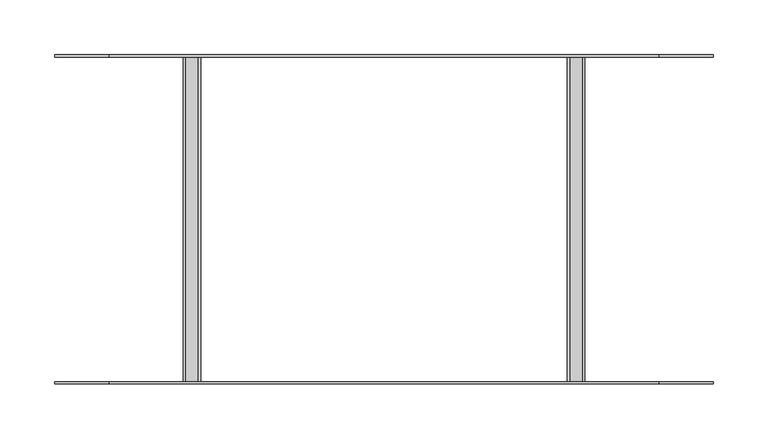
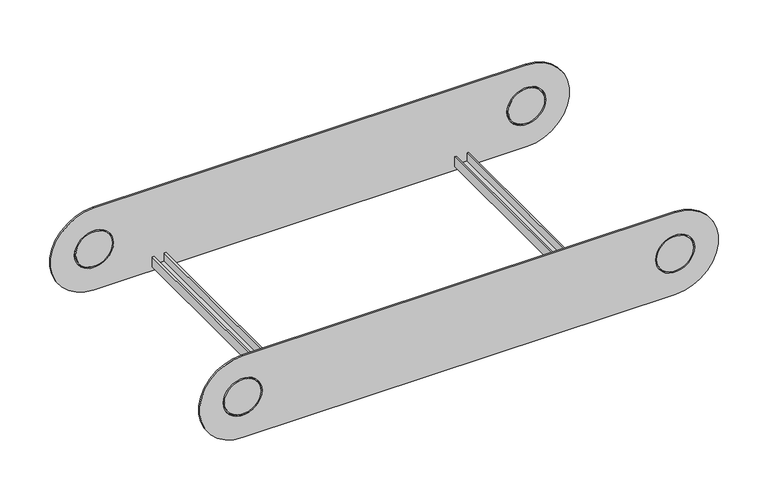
"""IFC4 building model written with IfcOpenShell, lengths in millimetres: cable carrier fitting geometry, BAKS_LDLS_BEND_Adjustable vertical bend element_ELDS : ELDSC_H100."""

from ifc_helpers import new_model, si_unit, point, frame, frame_2d, origin, origin_2d, place, context, project, spatial, polyline, circle_curve, trimmed, segment, composite_curve, outline, extrude, source, transform, mapped, element, save


def cable_carrier_fitting_d10d1ab3(model_context):
    return source(origin(), model_context, "Body", "SweptSolid", [
        extrude(outline(composite_curve([segment(polyline([(50.0, 500.0), (50.0, 0.0)]), True, "CONTINUOUS"), segment(trimmed(circle_curve(origin_2d(), 50.0), [point((50.0, 0.0))], [point((-50.0, 0.0))], False, "CARTESIAN"), True, "CONTINUOUS"), segment(polyline([(-50.0, 0.0), (-50.0, 500.0)]), True, "CONTINUOUS"), segment(trimmed(circle_curve(frame_2d((0.0, 500.0)), 50.0), [point((-50.0, 500.0))], [point((50.0, 500.0))], False, "CARTESIAN"), True, "CONTINUOUS")], self_intersect=False), holes=[composite_curve([segment(trimmed(circle_curve(origin_2d(), 22.5), [point((0.0, -22.5))], [point((0.0, 22.5))], True, "CARTESIAN"), True, "CONTINUOUS"), segment(trimmed(circle_curve(origin_2d(), 22.5), [point((0.0, 22.5))], [point((0.0, -22.5))], True, "CARTESIAN"), True, "CONTINUOUS")], self_intersect=False), composite_curve([segment(trimmed(circle_curve(frame_2d((0.0, 500.0)), 22.5), [point((0.0, 477.5))], [point((0.0, 522.5))], True, "CARTESIAN"), True, "CONTINUOUS"), segment(trimmed(circle_curve(frame_2d((0.0, 500.0)), 22.5), [point((0.0, 522.5))], [point((0.0, 477.5))], True, "CARTESIAN"), True, "CONTINUOUS")], self_intersect=False)]), frame((0.0, 148.0, 0.0), z_axis=(0.0, 1.0, 0.0), x_axis=(0.0, 0.0, 1.0)), (0.0, 0.0, 1.0), 2.0),
        extrude(outline(composite_curve([segment(trimmed(circle_curve(origin_2d(), 21.0), [point((0.0, -21.0))], [point((0.0, 21.0))], False, "CARTESIAN"), True, "CONTINUOUS"), segment(trimmed(circle_curve(origin_2d(), 21.0), [point((0.0, 21.0))], [point((0.0, -21.0))], False, "CARTESIAN"), True, "CONTINUOUS")], self_intersect=False)), frame((0.0, 148.0, 0.0), z_axis=(0.0, 1.0, 0.0), x_axis=(0.0, 0.0, 1.0)), (0.0, 0.0, 1.0), 2.0),
        extrude(outline(composite_curve([segment(trimmed(circle_curve(frame_2d((0.0, 500.0)), 21.0), [point((0.0, 479.0))], [point((0.0, 521.0))], False, "CARTESIAN"), True, "CONTINUOUS"), segment(trimmed(circle_curve(frame_2d((0.0, 500.0)), 21.0), [point((0.0, 521.0))], [point((0.0, 479.0))], False, "CARTESIAN"), True, "CONTINUOUS")], self_intersect=False)), frame((0.0, 148.0, 0.0), z_axis=(0.0, 1.0, 0.0), x_axis=(0.0, 0.0, 1.0)), (0.0, 0.0, 1.0), 2.0),
        extrude(outline(composite_curve([segment(polyline([(50.0, 500.0), (50.0, 0.0)]), True, "CONTINUOUS"), segment(trimmed(circle_curve(origin_2d(), 50.0), [point((50.0, 0.0))], [point((-50.0, 0.0))], False, "CARTESIAN"), True, "CONTINUOUS"), segment(polyline([(-50.0, 0.0), (-50.0, 500.0)]), True, "CONTINUOUS"), segment(trimmed(circle_curve(frame_2d((0.0, 500.0)), 50.0), [point((-50.0, 500.0))], [point((50.0, 500.0))], False, "CARTESIAN"), True, "CONTINUOUS")], self_intersect=False), holes=[composite_curve([segment(trimmed(circle_curve(origin_2d(), 22.5), [point((0.0, -22.5))], [point((0.0, 22.5))], True, "CARTESIAN"), True, "CONTINUOUS"), segment(trimmed(circle_curve(origin_2d(), 22.5), [point((0.0, 22.5))], [point((0.0, -22.5))], True, "CARTESIAN"), True, "CONTINUOUS")], self_intersect=False), composite_curve([segment(trimmed(circle_curve(frame_2d((0.0, 500.0)), 22.5), [point((0.0, 477.5))], [point((0.0, 522.5))], True, "CARTESIAN"), True, "CONTINUOUS"), segment(trimmed(circle_curve(frame_2d((0.0, 500.0)), 22.5), [point((0.0, 522.5))], [point((0.0, 477.5))], True, "CARTESIAN"), True, "CONTINUOUS")], self_intersect=False)]), frame((0.0, -150.0, 0.0), z_axis=(0.0, 1.0, 0.0), x_axis=(0.0, 0.0, 1.0)), (0.0, 0.0, 1.0), 2.0),
        extrude(outline(composite_curve([segment(trimmed(circle_curve(origin_2d(), 21.0), [point((0.0, -21.0))], [point((0.0, 21.0))], False, "CARTESIAN"), True, "CONTINUOUS"), segment(trimmed(circle_curve(origin_2d(), 21.0), [point((0.0, 21.0))], [point((0.0, -21.0))], False, "CARTESIAN"), True, "CONTINUOUS")], self_intersect=False)), frame((0.0, -150.0, 0.0), z_axis=(0.0, 1.0, 0.0), x_axis=(0.0, 0.0, 1.0)), (0.0, 0.0, 1.0), 2.0),
        extrude(outline(composite_curve([segment(trimmed(circle_curve(frame_2d((0.0, 500.0)), 21.0), [point((0.0, 479.0))], [point((0.0, 521.0))], False, "CARTESIAN"), True, "CONTINUOUS"), segment(trimmed(circle_curve(frame_2d((0.0, 500.0)), 21.0), [point((0.0, 521.0))], [point((0.0, 479.0))], False, "CARTESIAN"), True, "CONTINUOUS")], self_intersect=False)), frame((0.0, -150.0, 0.0), z_axis=(0.0, 1.0, 0.0), x_axis=(0.0, 0.0, 1.0)), (0.0, 0.0, 1.0), 2.0),
        extrude(outline(polyline([(-45.0, 417.0), (-45.0, 433.0), (-33.0, 433.0), (-33.0, 431.0), (-43.0, 431.0), (-43.0, 419.0), (-33.0, 419.0), (-33.0, 417.0), (-45.0, 417.0)])), frame((0.0, -148.0, 0.0), z_axis=(0.0, 1.0, 0.0), x_axis=(0.0, 0.0, 1.0)), (0.0, 0.0, 1.0), 296.0),
        extrude(outline(polyline([(-45.0, 67.0), (-45.0, 83.0), (-33.0, 83.0), (-33.0, 81.0), (-43.0, 81.0), (-43.0, 69.0), (-33.0, 69.0), (-33.0, 67.0), (-45.0, 67.0)])), frame((0.0, -148.0, 0.0), z_axis=(0.0, 1.0, 0.0), x_axis=(0.0, 0.0, 1.0)), (0.0, 0.0, 1.0), 296.0),
    ])


if __name__ == "__main__":
    model = new_model("IFC4")
    model_context = context("Model", 3, world=origin())
    ifc_project = project(units=[si_unit("LENGTHUNIT", "METRE", prefix="MILLI")], contexts=[model_context])
    site = spatial("IfcSite", under=ifc_project)
    building = spatial("IfcBuilding", under=site)
    placement = place(None, origin())
    cable_carrier_fitting_shape = cable_carrier_fitting_d10d1ab3(model_context)
    element("IfcCableCarrierFitting", 1, ObjectType="BAKS_LDLS_BEND_Adjustable vertical bend element_ELDS : ELDSC_H100", at=placement, inside=building, context=model_context, shape_type="MappedRepresentation", body=[
        mapped(cable_carrier_fitting_shape, transform((0.0, 0.0, 0.0), x_axis=(1.0, 0.0, 0.0), y_axis=(0.0, 1.0, 0.0), z_axis=(0.0, 0.0, 1.0))),
    ])
    save(model, "model.ifc")
